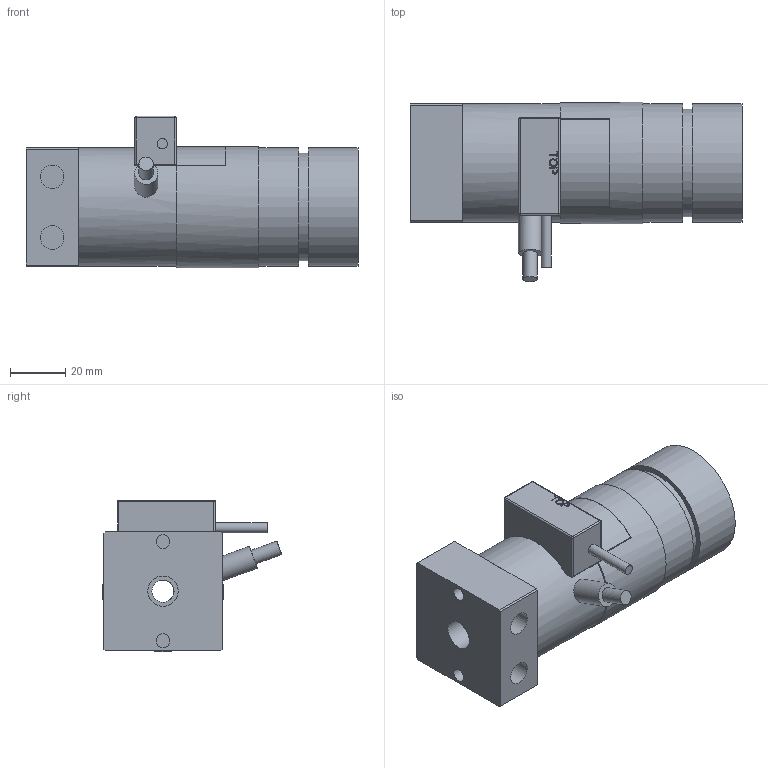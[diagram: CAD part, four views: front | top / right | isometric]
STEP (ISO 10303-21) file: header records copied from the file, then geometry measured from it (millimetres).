
FILE_DESCRIPTION( ( 'Unknown' ), '1' );
FILE_NAME( 'I:/Entwicklung/Mechanik/cad/Dokumentation extern 3D/3D_Scan Systems/varioSCAN/varioSCAN de 20i/varioSCAN de 20i_wc.stp', 'Unknown', ( 'Unknown' ), ( 'Unknown' ), 'PSStep 15.0.49', 'Unknown', ' ' );
FILE_SCHEMA( ( 'AUTOMOTIVE_DESIGN { 1 0 10303 214 1 1 1 1 }' ) );
Length unit declared in the file: millimetre
Products named in the file (1): 1
Bounding box: 120.5 x 65.05 x 55 mm (x, y, z)
Volume: 171155.7 mm3; surface area: 28832.7 mm2
Topology: 1 solids, 3 shells, 100 faces, 212 edges, 132 vertices
Faces by surface type: plane 60, cylinder 30, extrusion 4, sphere 4, cone 2
Full cylindrical faces by diameter (mm): 2.501 x2, 3.7 x1, 5 x2, 5.2 x1, 8 x1, 8.5 x2, 8.566 x2, 11 x1, 12 x1, 39 x1, 43 x3, 44 x1
Entity records: 2919 total; most frequent: CARTESIAN_POINT 936, DIRECTION 401, ORIENTED_EDGE 352, EDGE_CURVE 176, AXIS2_PLACEMENT_3D 159, EDGE_LOOP 143, VERTEX_POINT 123, FACE_OUTER_BOUND 120
